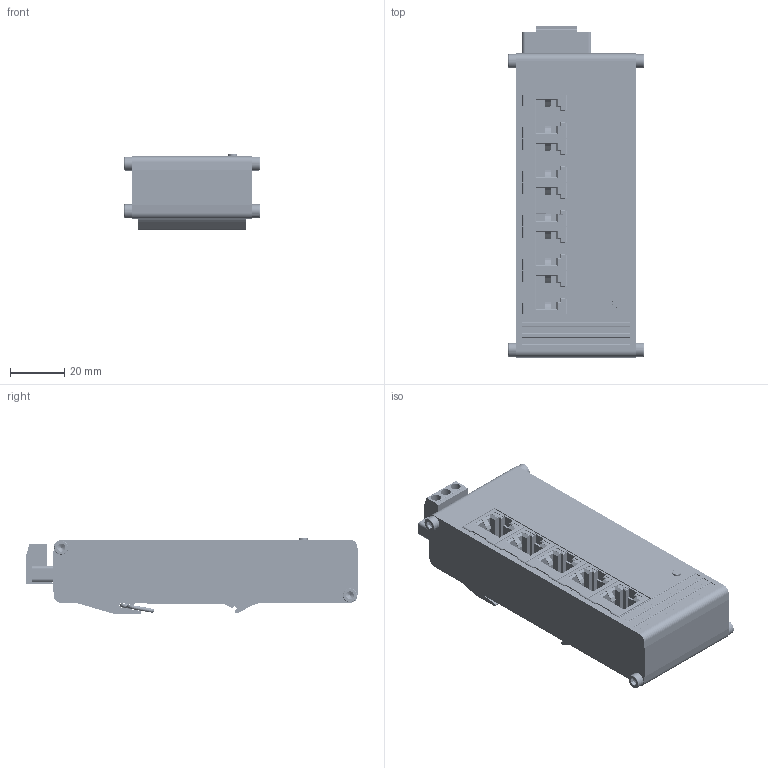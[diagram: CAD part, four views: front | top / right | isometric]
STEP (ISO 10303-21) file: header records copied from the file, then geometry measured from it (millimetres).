
FILE_DESCRIPTION (( 'STEP AP214' ), '1' );
FILE_NAME ('0170_TSF000AX00X_01_Spatial.STEP', '2025-11-26T13:15:58', ( '' ), ( '' ), 'SwSTEP 2.0', 'SolidWorks 2024', '' );
FILE_SCHEMA (( 'AUTOMOTIVE_DESIGN' ));
Length unit declared in the file: millimetre
Products named in the file (11): 0045_SF010DPX000X_01; 0024_SF010DHX000X_02; 0018_RTC50DCX000X_01; 0170_TSF000AX00X_01_Spatial; TSW10X_DIN_Rail_Spring_v2_S10XDDS002; 0025_SF010DPX000X_01; 0031_SF010DAX000X_02_w engraving; WJ2EDGKM-5.08-03P-13-02A; TSF010_v2.0_3D_FULL_20231116_0830; 515-1301-0600F; 0130_ALXXXDFX0SCX_01
Assembly tree (13 placements, depth 3):
  0170_TSF000AX00X_01_Spatial
    0031_SF010DAX000X_02_w engraving
      0024_SF010DHX000X_02
      TSW10X_DIN_Rail_Spring_v2_S10XDDS002
    0025_SF010DPX000X_01
    0045_SF010DPX000X_01
    515-1301-0600F
    0130_ALXXXDFX0SCX_01  x4
    TSF010_v2.0_3D_FULL_20231116_0830
    WJ2EDGKM-5.08-03P-13-02A
    0018_RTC50DCX000X_01
Bounding box: 50 x 122.55 x 27.96 mm (x, y, z)
Volume: 36737.3 mm3; surface area: 66867.7 mm2
Topology: 11 solids, 574 shells, 11790 faces, 29700 edges, 18473 vertices
Faces by surface type: cylinder 4180, plane 4021, bspline 3310, sphere 147, cone 83, torus 49
Full cylindrical faces by diameter (mm): 0.9 x40, 1 x20, 1.4 x3, 1.5 x10, 1.7 x2, 2.18 x4, 2.2 x1, 2.36 x1, 2.4 x2, 2.7 x3, 2.92 x1, 3.2 x14, 3.3 x1, 5.15 x4
Entity records: 412590 total; most frequent: CARTESIAN_POINT 129630, DIRECTION 59433, ORIENTED_EDGE 58535, EDGE_CURVE 29270, AXIS2_PLACEMENT_3D 22798, VERTEX_POINT 18292, CIRCLE 14405, LINE 13837
